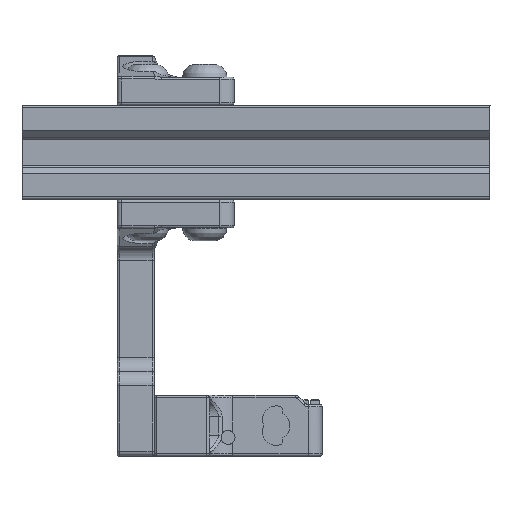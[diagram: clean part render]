
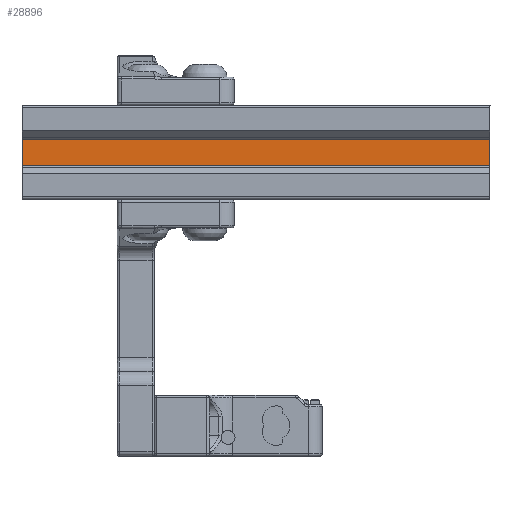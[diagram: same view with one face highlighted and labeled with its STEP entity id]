
A CAD part, front view. The second image highlights one B-rep face of the part: STEP entity #28896.
In plain terms, the highlighted planar face has unit normal (0, -1, 0).
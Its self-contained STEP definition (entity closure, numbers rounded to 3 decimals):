
#1308=PLANE('',#31861);
#3115=FACE_OUTER_BOUND('',#4880,.T.);
#4880=EDGE_LOOP('',(#26415,#26416,#26417,#26418));
#8873=LINE('',#108097,#10796);
#8993=LINE('',#108348,#10916);
#8994=LINE('',#108351,#10917);
#8995=LINE('',#108352,#10918);
#10796=VECTOR('',#38719,10.);
#10916=VECTOR('',#38957,10.);
#10917=VECTOR('',#38960,10.);
#10918=VECTOR('',#38961,10.);
#13568=VERTEX_POINT('',#108094);
#13569=VERTEX_POINT('',#108096);
#13641=VERTEX_POINT('',#108346);
#13642=VERTEX_POINT('',#108350);
#17792=EDGE_CURVE('',#13568,#13569,#8873,.T.);
#17918=EDGE_CURVE('',#13568,#13641,#8993,.T.);
#17919=EDGE_CURVE('',#13642,#13641,#8994,.F.);
#17920=EDGE_CURVE('',#13569,#13642,#8995,.T.);
#26415=ORIENTED_EDGE('',*,*,#17792,.F.);
#26416=ORIENTED_EDGE('',*,*,#17918,.T.);
#26417=ORIENTED_EDGE('',*,*,#17919,.F.);
#26418=ORIENTED_EDGE('',*,*,#17920,.F.);
#28896=ADVANCED_FACE('',(#3115),#1308,.T.);
#31861=AXIS2_PLACEMENT_3D('',#108349,#38958,#38959);
#38719=DIRECTION('',(0.,0.,1.));
#38957=DIRECTION('',(1.,0.,0.));
#38958=DIRECTION('center_axis',(0.,-1.,0.));
#38959=DIRECTION('ref_axis',(0.,0.,
-1.));
#38960=DIRECTION('',(0.,0.,1.));
#38961=DIRECTION('',(1.,0.,0.));
#108094=CARTESIAN_POINT('',(76.7,66.95,60.865));
#108096=CARTESIAN_POINT('',(76.7,66.95,66.555));
#108097=CARTESIAN_POINT('',(76.7,66.95,65.133));
#108346=CARTESIAN_POINT('',(176.7,66.95,60.865));
#108348=CARTESIAN_POINT('',(26.7,66.95,60.865));
#108349=CARTESIAN_POINT('Origin',(26.7,66.95,66.555));
#108350=CARTESIAN_POINT('',(176.7,66.95,66.555));
#108351=CARTESIAN_POINT('',(176.7,66.95,65.132));
#108352=CARTESIAN_POINT('',(26.7,66.95,66.555));
